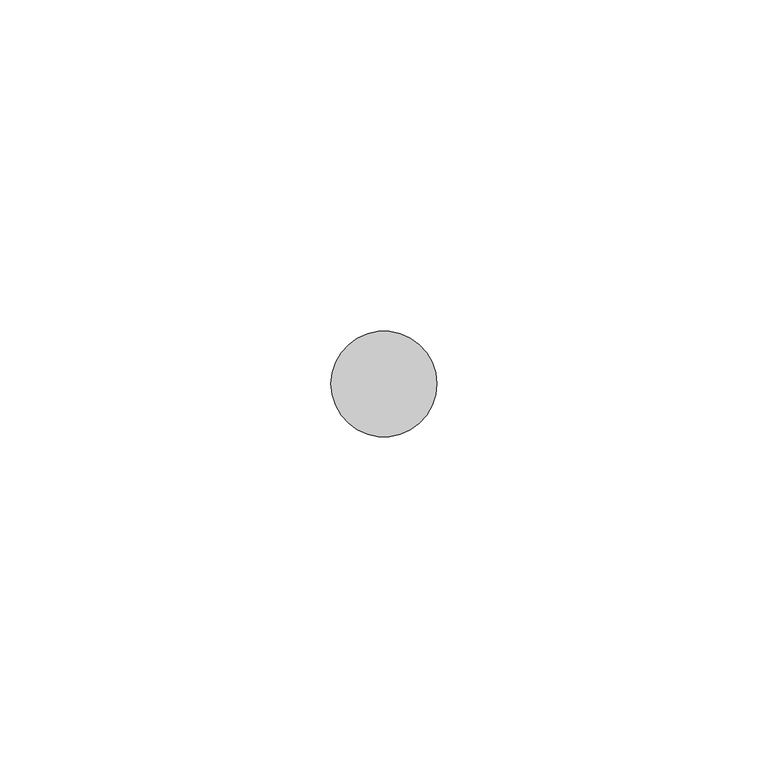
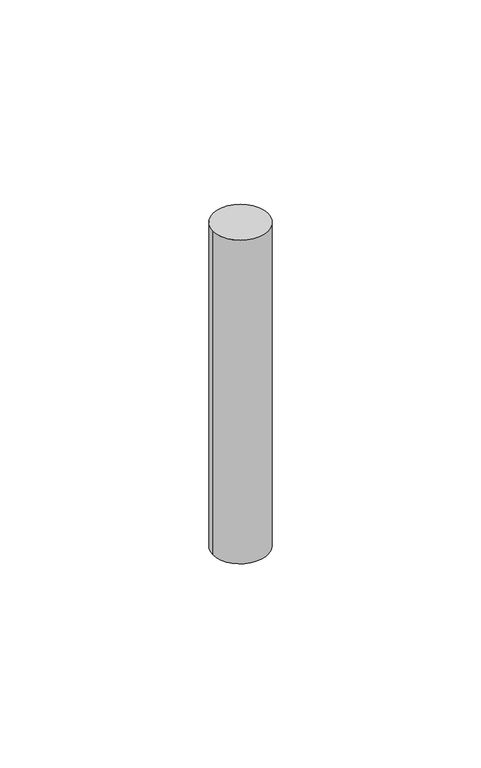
"""IFC4 building model written with IfcOpenShell, lengths in millimetres: pipe fitting geometry, СТ_Вл-3D_Подсчет_Шпилька : СТ_Вл-3D_Подсчет_Шпилька."""

from ifc_helpers import new_model, si_unit, point, origin, origin_with_axes, origin_2d, place, context, project, spatial, circle_curve, trimmed, segment, composite_curve, outline, extrude, source, transform, mapped, element, save


def pipe_fitting_ea1120f8(model_context):
    return source(origin(), model_context, "Body", "SweptSolid", [
        extrude(outline(composite_curve([segment(trimmed(circle_curve(origin_2d(), 8.0), [point((-8.0, 0.0))], [point((8.0, 0.0))], False, "CARTESIAN"), True, "CONTINUOUS"), segment(trimmed(circle_curve(origin_2d(), 8.0), [point((8.0, 0.0))], [point((-8.0, 0.0))], False, "CARTESIAN"), True, "CONTINUOUS")], self_intersect=False)), origin_with_axes(), (0.0, 0.0, 1.0), 100.0),
    ])


if __name__ == "__main__":
    model = new_model("IFC4")
    model_context = context("Model", 3, world=origin())
    ifc_project = project(units=[si_unit("LENGTHUNIT", "METRE", prefix="MILLI")], contexts=[model_context])
    site = spatial("IfcSite", under=ifc_project)
    building = spatial("IfcBuilding", under=site)
    placement = place(None, origin())
    pipe_fitting_shape = pipe_fitting_ea1120f8(model_context)
    element("IfcPipeFitting", 1, ObjectType="СТ_Вл-3D_Подсчет_Шпилька : СТ_Вл-3D_Подсчет_Шпилька", at=placement, inside=building, context=model_context, shape_type="MappedRepresentation", body=[
        mapped(pipe_fitting_shape, transform((0.0, 0.0, 0.0), x_axis=(1.0, 0.0, 0.0), y_axis=(0.0, 1.0, 0.0), z_axis=(0.0, 0.0, 1.0))),
    ])
    save(model, "model.ifc")
